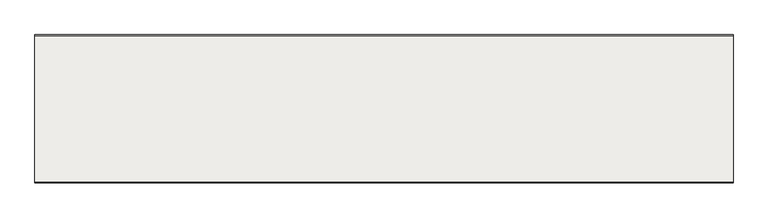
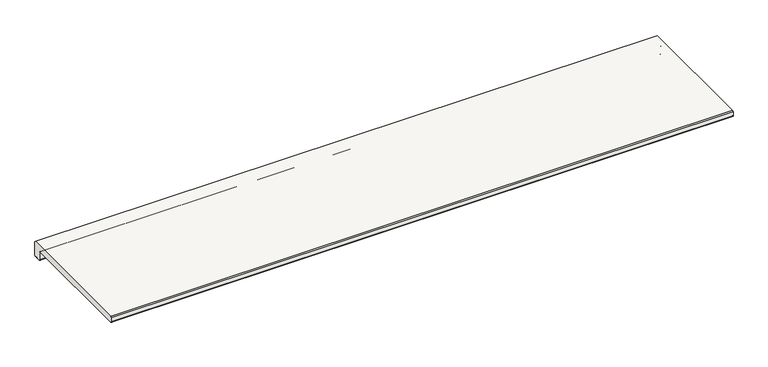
"""IFC4 building model written with IfcOpenShell, lengths in millimetres: slab geometry, ROSA GRES_L98 : Pieza L98_Serena_Ocra_Anti-Slip."""

from ifc_helpers import new_model, si_unit, point, frame, frame_2d, origin, place, context, project, spatial, polyline, circle_curve, trimmed, segment, composite_curve, outline, extrude, source, transform, mapped, element, save


def slab_0c0f7e66(model_context):
    return source(origin(), model_context, "Body", "SweptSolid", [
        extrude(outline(composite_curve([segment(trimmed(circle_curve(frame_2d((-17.5526771, -20.6005654)), 2.3994346), [point((-17.5526771, -23.0))], [point((-19.9521117, -20.6005654))], False, "CARTESIAN"), True, "CONTINUOUS"), segment(polyline([(-19.9521117, -20.6005654), (-19.9521117, -2.5191553)]), True, "CONTINUOUS"), segment(trimmed(circle_curve(frame_2d((-22.471267, -2.5191553)), 2.5191553), [point((-19.9521117, -2.5191553))], [point((-22.471267, 0.0))], True, "CARTESIAN"), True, "CONTINUOUS"), segment(polyline([(-22.471267, 0.0), (-314.5, 0.0)]), True, "CONTINUOUS"), segment(trimmed(circle_curve(frame_2d((-314.5, 2.5)), 2.5), [point((-314.5, 0.0))], [point((-317.0, 2.5))], False, "CARTESIAN"), True, "CONTINUOUS"), segment(polyline([(-317.0, 2.5), (-317.0, 12.5), (-314.5, 15.0), (-2.5, 15.0), (0.0, 12.5), (0.0, -20.5)]), True, "CONTINUOUS"), segment(trimmed(circle_curve(frame_2d((-2.5, -20.5)), 2.5), [point((0.0, -20.5))], [point((-2.5, -23.0))], False, "CARTESIAN"), True, "CONTINUOUS"), segment(polyline([(-2.5, -23.0), (-8.1493716, -23.0)]), True, "CONTINUOUS"), segment(trimmed(circle_curve(frame_2d((-10.0167467, -23.0)), 1.8673751), [point((-8.1493716, -23.0))], [point((-11.8841218, -23.0))], True, "CARTESIAN"), True, "CONTINUOUS"), segment(polyline([(-11.8841218, -23.0), (-17.5526771, -23.0)]), True, "CONTINUOUS")], self_intersect=False)), frame((0.0, 0.0, 0.0), z_axis=(1.0, 0.0, 0.0), x_axis=(0.0, 1.0, 0.0)), (0.0, 0.0, 1.0), 1489.9334018),
    ])


if __name__ == "__main__":
    model = new_model("IFC4")
    model_context = context("Model", 3, world=origin())
    ifc_project = project(units=[si_unit("LENGTHUNIT", "METRE", prefix="MILLI")], contexts=[model_context])
    site = spatial("IfcSite", under=ifc_project)
    building = spatial("IfcBuilding", under=site)
    placement = place(None, origin())
    slab_shape = slab_0c0f7e66(model_context)
    element("IfcSlab", 1, ObjectType="ROSA GRES_L98 : Pieza L98_Serena_Ocra_Anti-Slip", at=placement, inside=building, context=model_context, shape_type="MappedRepresentation", body=[
        mapped(slab_shape, transform((0.0, 0.0, 0.0), x_axis=(1.0, 0.0, 0.0), y_axis=(0.0, 1.0, 0.0), z_axis=(0.0, 0.0, 1.0))),
    ])
    save(model, "model.ifc")
